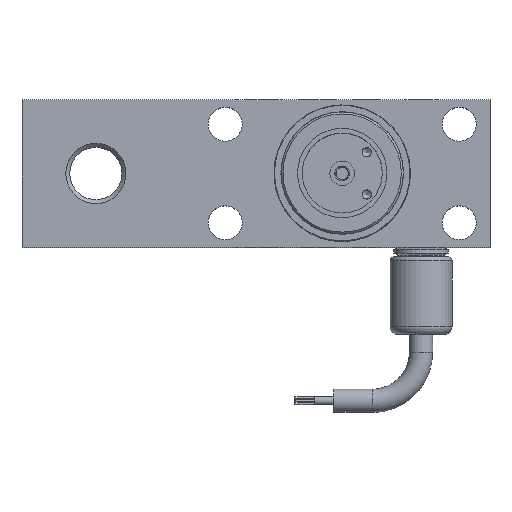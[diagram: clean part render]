
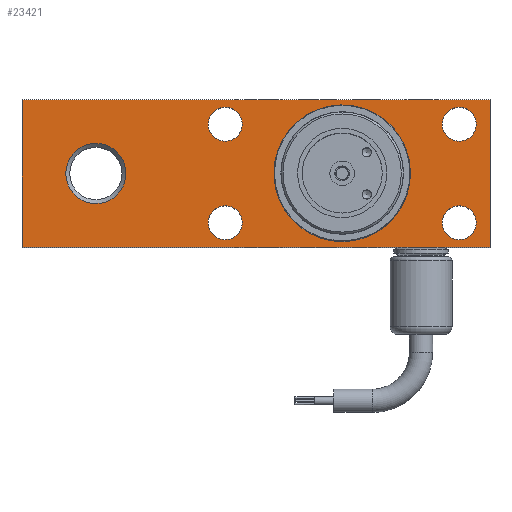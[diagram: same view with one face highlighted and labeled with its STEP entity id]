
A CAD part, top view. The second image highlights one B-rep face of the part: STEP entity #23421.
In plain terms, the highlighted planar face has unit normal (0, 0, 1).
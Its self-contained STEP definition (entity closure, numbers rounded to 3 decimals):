
#2037=LINE('',#88741,#3881);
#2063=LINE('',#89039,#3907);
#2087=LINE('',#89357,#3931);
#3088=LINE('',#94008,#4932);
#3881=VECTOR('',#27134,10.);
#3907=VECTOR('',#27286,10.);
#3931=VECTOR('',#27380,10.);
#4932=VECTOR('',#29125,10.);
#5293=FACE_BOUND('',#8222,.T.);
#5294=FACE_BOUND('',#8223,.T.);
#5295=FACE_BOUND('',#8224,.T.);
#5296=FACE_BOUND('',#8225,.T.);
#5297=FACE_BOUND('',#8226,.T.);
#5298=FACE_BOUND('',#8227,.T.);
#6686=FACE_OUTER_BOUND('',#8221,.T.);
#8221=EDGE_LOOP('',(#20109,#20110,#20111,#20112));
#8222=EDGE_LOOP('',(#20113));
#8223=EDGE_LOOP('',(#20114));
#8224=EDGE_LOOP('',(#20115));
#8225=EDGE_LOOP('',(#20116));
#8226=EDGE_LOOP('',(#20117));
#8227=EDGE_LOOP('',(#20118));
#8688=CIRCLE('',#24295,4.369);
#8689=CIRCLE('',#24297,4.369);
#8690=CIRCLE('',#24299,4.369);
#8691=CIRCLE('',#24301,4.369);
#8702=CIRCLE('',#24321,7.76);
#8741=CIRCLE('',#24751,17.463);
#9897=VERTEX_POINT('',#88739);
#9898=VERTEX_POINT('',#88740);
#9944=VERTEX_POINT('',#88865);
#9945=VERTEX_POINT('',#88868);
#9946=VERTEX_POINT('',#88871);
#9947=VERTEX_POINT('',#88874);
#9958=VERTEX_POINT('',#89009);
#9965=VERTEX_POINT('',#89037);
#9966=VERTEX_POINT('',#89038);
#10844=VERTEX_POINT('',#94041);
#12540=EDGE_CURVE('',#9897,#9898,#2037,.T.);
#12588=EDGE_CURVE('',#9944,#9944,#8688,.T.);
#12589=EDGE_CURVE('',#9945,#9945,#8689,.T.);
#12590=EDGE_CURVE('',#9946,#9946,#8690,.T.);
#12591=EDGE_CURVE('',#9947,#9947,#8691,.T.);
#12608=EDGE_CURVE('',#9958,#9958,#8702,.T.);
#12615=EDGE_CURVE('',#9965,#9966,#2063,.T.);
#12673=EDGE_CURVE('',#9966,#9897,#2087,.T.);
#13952=EDGE_CURVE('',#9898,#9965,#3088,.T.);
#13956=EDGE_CURVE('',#10844,#10844,#8741,.T.);
#20109=ORIENTED_EDGE('',*,*,#12540,.F.);
#20110=ORIENTED_EDGE('',*,*,#12673,.F.);
#20111=ORIENTED_EDGE('',*,*,#12615,.F.);
#20112=ORIENTED_EDGE('',*,*,#13952,.F.);
#20113=ORIENTED_EDGE('',*,*,#12608,.F.);
#20114=ORIENTED_EDGE('',*,*,#12591,.T.);
#20115=ORIENTED_EDGE('',*,*,#12590,.T.);
#20116=ORIENTED_EDGE('',*,*,#12589,.T.);
#20117=ORIENTED_EDGE('',*,*,#12588,.T.);
#20118=ORIENTED_EDGE('',*,*,#13956,.T.);
#20934=PLANE('',#24750);
#23421=ADVANCED_FACE('',(#6686,#5293,#5294,#5295,#5296,#5297,#5298),#20934,
 .F.);
#24295=AXIS2_PLACEMENT_3D('',#88866,#27210,#27211);
#24297=AXIS2_PLACEMENT_3D('',#88869,#27214,#27215);
#24299=AXIS2_PLACEMENT_3D('',#88872,#27218,#27219);
#24301=AXIS2_PLACEMENT_3D('',#88875,#27222,#27223);
#24321=AXIS2_PLACEMENT_3D('',#89010,#27264,#27265);
#24750=AXIS2_PLACEMENT_3D('',#94040,#29148,#29149);
#24751=AXIS2_PLACEMENT_3D('',#94042,#29150,#29151);
#27134=DIRECTION('',(0.,-1.,0.));
#27210=DIRECTION('center_axis',(0.,0.,-1.));
#27211=DIRECTION('ref_axis',(-1.,0.,0.));
#27214=DIRECTION('center_axis',(0.,0.,-1.));
#27215=DIRECTION('ref_axis',(-1.,0.,0.));
#27218=DIRECTION('center_axis',(0.,0.,-1.));
#27219=DIRECTION('ref_axis',(-1.,0.,0.));
#27222=DIRECTION('center_axis',(0.,0.,-1.));
#27223=DIRECTION('ref_axis',(-1.,0.,0.));
#27264=DIRECTION('center_axis',(0.,0.,1.));
#27265=DIRECTION('ref_axis',(-1.,0.,0.));
#27286=DIRECTION('',(0.,1.,0.));
#27380=DIRECTION('',(1.,0.,0.));
#29125=DIRECTION('',(-1.,0.,0.));
#29148=DIRECTION('center_axis',(0.,0.,-1.));
#29149=DIRECTION('ref_axis',(-1.,0.,0.));
#29150=DIRECTION('center_axis',(0.,0.,-1.));
#29151=DIRECTION('ref_axis',(-1.,0.,0.));
#88739=CARTESIAN_POINT('',(38.1,19.05,19.05));
#88740=CARTESIAN_POINT('',(38.1,-19.05,19.05));
#88741=CARTESIAN_POINT('',(38.1,9.525,19.05));
#88865=CARTESIAN_POINT('',(34.531,12.7,19.05));
#88866=CARTESIAN_POINT('Origin',(30.163,12.7,19.05));
#88868=CARTESIAN_POINT('',(34.531,-12.7,19.05));
#88869=CARTESIAN_POINT('Origin',(30.163,-12.7,19.05));
#88871=CARTESIAN_POINT('',(-25.794,-12.7,19.05));
#88872=CARTESIAN_POINT('Origin',(-30.163,-12.7,19.05));
#88874=CARTESIAN_POINT('',(-25.794,12.7,19.05));
#88875=CARTESIAN_POINT('Origin',(-30.163,12.7,19.05));
#89009=CARTESIAN_POINT('',(-55.74,0.,19.05));
#89010=CARTESIAN_POINT('Origin',(-63.5,0.,19.05));
#89037=CARTESIAN_POINT('',(-82.55,-19.05,19.05));
#89038=CARTESIAN_POINT('',(-82.55,19.05,19.05));
#89039=CARTESIAN_POINT('',(-82.55,-19.05,19.05));
#89357=CARTESIAN_POINT('',(-34.1,19.05,19.05));
#94008=CARTESIAN_POINT('',(4.,-19.05,19.05));
#94040=CARTESIAN_POINT('Origin',(-30.099,0.,19.05));
#94041=CARTESIAN_POINT('',(17.463,0.,19.05));
#94042=CARTESIAN_POINT('Origin',(0.,0.,19.05));
